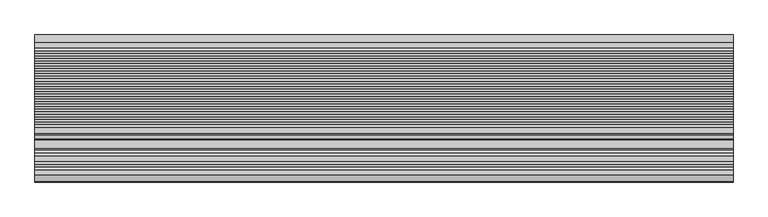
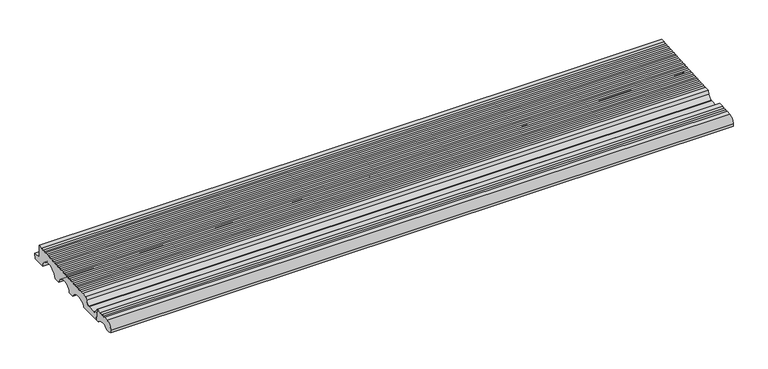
"""IFC4 building model written with IfcOpenShell, lengths in millimetres: proxy geometry, Muestra 1.25m 016 : Muestra 1.25m 016."""

from ifc_helpers import new_model, si_unit, point, frame, frame_2d, origin, place, context, project, spatial, polyline, circle_curve, trimmed, segment, composite_curve, outline, extrude, source, transform, mapped, element, save


def generic_models_7034d713(model_context):
    return source(origin(), model_context, "Body", "SweptSolid", [
        extrude(outline(composite_curve([segment(polyline([(-5728.3131807, -16.9859305), (-5731.5711986, 6.9649666), (-5727.2452538, 0.0914339)]), True, "CONTINUOUS"), segment(trimmed(circle_curve(frame_2d((-5714.8183401, 7.3556047)), 14.394317), [point((-5727.2452538, 0.0914339))], [point((-5721.4962148, -5.395958))], True, "CARTESIAN"), True, "CONTINUOUS"), segment(trimmed(circle_curve(frame_2d((-5719.3829505, -1.3606288)), 4.5551913), [point((-5721.4962148, -5.395958))], [point((-5719.0828888, -5.9059265))], True, "CARTESIAN"), True, "CONTINUOUS"), segment(polyline([(-5719.0828888, -5.9059265), (-5703.5407864, -4.8799013)]), True, "CONTINUOUS"), segment(trimmed(circle_curve(frame_2d((-5703.8408481, -0.3346036)), 4.5551913), [point((-5703.5407864, -4.8799013))], [point((-5702.0154888, -4.5080711))], True, "CARTESIAN"), True, "CONTINUOUS"), segment(trimmed(circle_curve(frame_2d((-5707.7835892, 8.680006)), 14.394317), [point((-5702.0154888, -4.5080711))], [point((-5694.5095816, 3.1125036))], True, "CARTESIAN"), True, "CONTINUOUS"), segment(polyline([(-5694.5095816, 3.1125036), (-5691.8079764, 9.5536554), (-5681.046102, 10.2715259)]), True, "CONTINUOUS"), segment(trimmed(circle_curve(frame_2d((-5678.1634954, 13.2397878)), 4.1376321), [point((-5681.046102, 10.2715259))], [point((-5675.6632997, 9.9429679))], True, "CARTESIAN"), True, "CONTINUOUS"), segment(trimmed(circle_curve(frame_2d((-5673.1631041, 6.6461481)), 4.1376321), [point((-5675.6632997, 9.9429679))], [point((-5671.1180021, 10.2430296))], False, "CARTESIAN"), True, "CONTINUOUS"), segment(trimmed(circle_curve(frame_2d((-5669.0729001, 13.8399112)), 4.1376321), [point((-5671.1180021, 10.2430296))], [point((-5666.5727044, 10.5430914))], True, "CARTESIAN"), True, "CONTINUOUS"), segment(trimmed(circle_curve(frame_2d((-5664.0725088, 7.2462715)), 4.1376321), [point((-5666.5727044, 10.5430914))], [point((-5662.0274067, 10.8431531))], False, "CARTESIAN"), True, "CONTINUOUS"), segment(trimmed(circle_curve(frame_2d((-5659.9823047, 14.4400347)), 4.1376321), [point((-5662.0274067, 10.8431531))], [point((-5657.4821091, 11.1432148))], True, "CARTESIAN"), True, "CONTINUOUS"), segment(trimmed(circle_curve(frame_2d((-5654.9819134, 7.8463949)), 4.1376321), [point((-5657.4821091, 11.1432148))], [point((-5652.9368114, 11.4432765))], False, "CARTESIAN"), True, "CONTINUOUS"), segment(trimmed(circle_curve(frame_2d((-5650.8917094, 15.0401581)), 4.1376321), [point((-5652.9368114, 11.4432765))], [point((-5648.3915138, 11.7433382))], True, "CARTESIAN"), True, "CONTINUOUS"), segment(trimmed(circle_curve(frame_2d((-5645.8913181, 8.4465184)), 4.1376321), [point((-5648.3915138, 11.7433382))], [point((-5643.8462161, 12.0433999))], False, "CARTESIAN"), True, "CONTINUOUS"), segment(trimmed(circle_curve(frame_2d((-5641.8011141, 15.6402815)), 4.1376321), [point((-5643.8462161, 12.0433999))], [point((-5639.3009184, 12.3434617))], True, "CARTESIAN"), True, "CONTINUOUS"), segment(trimmed(circle_curve(frame_2d((-5636.8007228, 9.0466418)), 4.1376321), [point((-5639.3009184, 12.3434617))], [point((-5634.7556208, 12.6435234))], False, "CARTESIAN"), True, "CONTINUOUS"), segment(trimmed(circle_curve(frame_2d((-5632.7105187, 16.240405)), 4.1376321), [point((-5634.7556208, 12.6435234))], [point((-5630.2103231, 12.9435851))], True, "CARTESIAN"), True, "CONTINUOUS"), segment(trimmed(circle_curve(frame_2d((-5627.7101274, 9.6467652)), 4.1376321), [point((-5630.2103231, 12.9435851))], [point((-5625.6650254, 13.2436468))], False, "CARTESIAN"), True, "CONTINUOUS"), segment(trimmed(circle_curve(frame_2d((-5623.6199234, 16.8405284)), 4.1376321), [point((-5625.6650254, 13.2436468))], [point((-5621.1197278, 13.5437085))], True, "CARTESIAN"), True, "CONTINUOUS"), segment(trimmed(circle_curve(frame_2d((-5618.6195321, 10.2468887)), 4.1376321), [point((-5621.1197278, 13.5437085))], [point((-5616.5744301, 13.8437703))], False, "CARTESIAN"), True, "CONTINUOUS"), segment(trimmed(circle_curve(frame_2d((-5614.5293281, 17.4406518)), 4.1376321), [point((-5616.5744301, 13.8437703))], [point((-5612.0291324, 14.143832))], True, "CARTESIAN"), True, "CONTINUOUS"), segment(trimmed(circle_curve(frame_2d((-5609.5289368, 10.8470121)), 4.1376321), [point((-5612.0291324, 14.143832))], [point((-5607.4838348, 14.4438937))], False, "CARTESIAN"), True, "CONTINUOUS"), segment(trimmed(circle_curve(frame_2d((-5605.4387327, 18.0407753)), 4.1376321), [point((-5607.4838348, 14.4438937))], [point((-5602.9385371, 14.7439554))], True, "CARTESIAN"), True, "CONTINUOUS"), segment(trimmed(circle_curve(frame_2d((-5600.4383414, 11.4471355)), 4.1376321), [point((-5602.9385371, 14.7439554))], [point((-5598.3932394, 15.0440171))], False, "CARTESIAN"), True, "CONTINUOUS"), segment(trimmed(circle_curve(frame_2d((-5596.3481374, 18.6408987)), 4.1376321), [point((-5598.3932394, 15.0440171))], [point((-5593.8479418, 15.3440788))], True, "CARTESIAN"), True, "CONTINUOUS"), segment(trimmed(circle_curve(frame_2d((-5591.3477461, 12.047259)), 4.1376321), [point((-5593.8479418, 15.3440788))], [point((-5589.3026441, 15.6441406))], False, "CARTESIAN"), True, "CONTINUOUS"), segment(trimmed(circle_curve(frame_2d((-5587.2575421, 19.2410222)), 4.1376321), [point((-5589.3026441, 15.6441406))], [point((-5584.7573464, 15.9442023))], True, "CARTESIAN"), True, "CONTINUOUS"), segment(trimmed(circle_curve(frame_2d((-5582.2571508, 12.6473824)), 4.1376321), [point((-5584.7573464, 15.9442023))], [point((-5580.2120488, 16.244264))], False, "CARTESIAN"), True, "CONTINUOUS"), segment(trimmed(circle_curve(frame_2d((-5578.1669467, 19.8411456)), 4.1376321), [point((-5580.2120488, 16.244264))], [point((-5575.6667511, 16.5443257))], True, "CARTESIAN"), True, "CONTINUOUS"), segment(trimmed(circle_curve(frame_2d((-5573.1665555, 13.2475058)), 4.1376321), [point((-5575.6667511, 16.5443257))], [point((-5571.1214534, 16.8443874))], False, "CARTESIAN"), True, "CONTINUOUS"), segment(trimmed(circle_curve(frame_2d((-5569.0763514, 20.441269)), 4.1376321), [point((-5571.1214534, 16.8443874))], [point((-5566.5761558, 17.1444492))], True, "CARTESIAN"), True, "CONTINUOUS"), segment(trimmed(circle_curve(frame_2d((-5564.0759601, 13.8476293)), 4.1376321), [point((-5566.5761558, 17.1444492))], [point((-5562.0308581, 17.4445109))], False, "CARTESIAN"), True, "CONTINUOUS"), segment(trimmed(circle_curve(frame_2d((-5559.9857561, 21.0413925)), 4.1376321), [point((-5562.0308581, 17.4445109))], [point((-5557.4855604, 17.7445726))], True, "CARTESIAN"), True, "CONTINUOUS"), segment(trimmed(circle_curve(frame_2d((-5554.9853648, 14.4477527)), 4.1376321), [point((-5557.4855604, 17.7445726))], [point((-5552.9402628, 18.0446343))], False, "CARTESIAN"), True, "CONTINUOUS"), segment(trimmed(circle_curve(frame_2d((-5550.8951607, 21.6415159)), 4.1376321), [point((-5552.9402628, 18.0446343))], [point((-5548.3949651, 18.344696))], True, "CARTESIAN"), True, "CONTINUOUS"), segment(trimmed(circle_curve(frame_2d((-5545.8947695, 15.0478762)), 4.1376321), [point((-5548.3949651, 18.344696))], [point((-5543.8496674, 18.6447577))], False, "CARTESIAN"), True, "CONTINUOUS"), segment(trimmed(circle_curve(frame_2d((-5541.8045654, 22.2416393)), 4.1376321), [point((-5543.8496674, 18.6447577))], [point((-5538.5560569, 19.6789859))], True, "CARTESIAN"), True, "CONTINUOUS"), segment(polyline([(-5538.5560569, 19.6789859), (-5529.3855983, 20.2843816), (-5529.4323642, -5.2023061), (-5514.9712316, -5.6420686), (-5515.3182784, -17.054341), (-5541.668286, -17.054341)]), True, "CONTINUOUS"), segment(trimmed(circle_curve(frame_2d((-5563.5849524, -20.7655939)), 22.2286676), [point((-5541.668286, -17.054341))], [point((-5585.4959694, -17.0211314))], True, "CARTESIAN"), True, "CONTINUOUS"), segment(polyline([(-5585.4959694, -17.0211314), (-5597.8664017, -17.0211314)]), True, "CONTINUOUS"), segment(trimmed(circle_curve(frame_2d((-5616.3716836, -20.9296779)), 18.9135452), [point((-5597.8664017, -17.0211314))], [point((-5634.8727727, -17.001333))], True, "CARTESIAN"), True, "CONTINUOUS"), segment(polyline([(-5634.8727727, -17.001333), (-5647.0786595, -17.001333), (-5647.6378968, -14.6163604)]), True, "CONTINUOUS"), segment(trimmed(circle_curve(frame_2d((-5652.9597785, -15.8642552)), 5.4662296), [point((-5647.6378968, -14.6163604))], [point((-5649.3435881, -11.7651293))], True, "CARTESIAN"), True, "CONTINUOUS"), segment(trimmed(circle_curve(frame_2d((-5666.3617008, -31.0559792)), 25.7245612), [point((-5649.3435881, -11.7651293))], [point((-5682.3626797, -10.913444))], True, "CARTESIAN"), True, "CONTINUOUS"), segment(trimmed(circle_curve(frame_2d((-5678.9626208, -15.1935451)), 5.4662296), [point((-5682.3626797, -10.913444))], [point((-5684.1296541, -13.4098881))], True, "CARTESIAN"), True, "CONTINUOUS"), segment(polyline([(-5684.1296541, -13.4098881), (-5685.364102, -16.9859305), (-5728.3131807, -16.9859305)]), True, "CONTINUOUS")], self_intersect=False)), frame((146337.6238351, 0.0, 0.0), z_axis=(1.0, 0.0, 0.0), x_axis=(0.0, 1.0, 0.0)), (0.0, 0.0, 1.0), 1250.0),
        extrude(outline(composite_curve([segment(trimmed(circle_curve(frame_2d((-5764.6461689, -8.8913998)), 13.6655739), [point((-5778.3111622, -9.0173723))], [point((-5766.1668891, 4.6892969))], False, "CARTESIAN"), True, "CONTINUOUS"), segment(polyline([(-5766.1668891, 4.6892969), (-5757.6138577, 5.2430894)]), True, "CONTINUOUS"), segment(trimmed(circle_curve(frame_2d((-5754.7322348, 8.2123064)), 4.1376321), [point((-5757.6138577, 5.2430894))], [point((-5752.2320392, 4.9154865))], True, "CARTESIAN"), True, "CONTINUOUS"), segment(trimmed(circle_curve(frame_2d((-5749.7318436, 1.6186667)), 4.1376321), [point((-5752.2320392, 4.9154865))], [point((-5747.6867415, 5.2155483))], False, "CARTESIAN"), True, "CONTINUOUS"), segment(trimmed(circle_curve(frame_2d((-5745.6416395, 8.8124298)), 4.1376321), [point((-5747.6867415, 5.2155483))], [point((-5742.3931311, 6.2497765))], True, "CARTESIAN"), True, "CONTINUOUS"), segment(polyline([(-5742.3931311, 6.2497765), (-5731.5595202, 6.9649666), (-5728.3038528, -16.9686509), (-5735.9208048, -16.9686509)]), True, "CONTINUOUS"), segment(trimmed(circle_curve(frame_2d((-5750.1351646, -28.1475389)), 18.0835716), [point((-5735.9208048, -16.9686509))], [point((-5764.335314, -16.9506054))], True, "CARTESIAN"), True, "CONTINUOUS"), segment(polyline([(-5764.335314, -16.9506054), (-5773.1588223, -16.9506054), (-5773.4199984, -14.4656812), (-5778.3228406, -14.4551517), (-5778.3111622, -9.0173723)]), True, "CONTINUOUS")], self_intersect=False)), frame((146337.6238351, 0.0, 0.0), z_axis=(1.0, 0.0, 0.0), x_axis=(0.0, 1.0, 0.0)), (0.0, 0.0, 1.0), 1250.0),
    ])


if __name__ == "__main__":
    model = new_model("IFC4")
    model_context = context("Model", 3, world=origin())
    ifc_project = project(units=[si_unit("LENGTHUNIT", "METRE", prefix="MILLI")], contexts=[model_context])
    site = spatial("IfcSite", under=ifc_project)
    building = spatial("IfcBuilding", under=site)
    placement = place(None, origin())
    generic_models_shape = generic_models_7034d713(model_context)
    element("IfcBuildingElementProxy", 1, Name="Muestra 1.25m 016 : Muestra 1.25m 016", ObjectType="Muestra 1.25m 016 : Muestra 1.25m 016", at=placement, inside=building, context=model_context, shape_type="MappedRepresentation", body=[
        mapped(generic_models_shape, transform((0.0, 0.0, 0.0), x_axis=(1.0, 0.0, 0.0), y_axis=(0.0, 1.0, 0.0), z_axis=(0.0, 0.0, 1.0))),
    ])
    save(model, "model.ifc")
